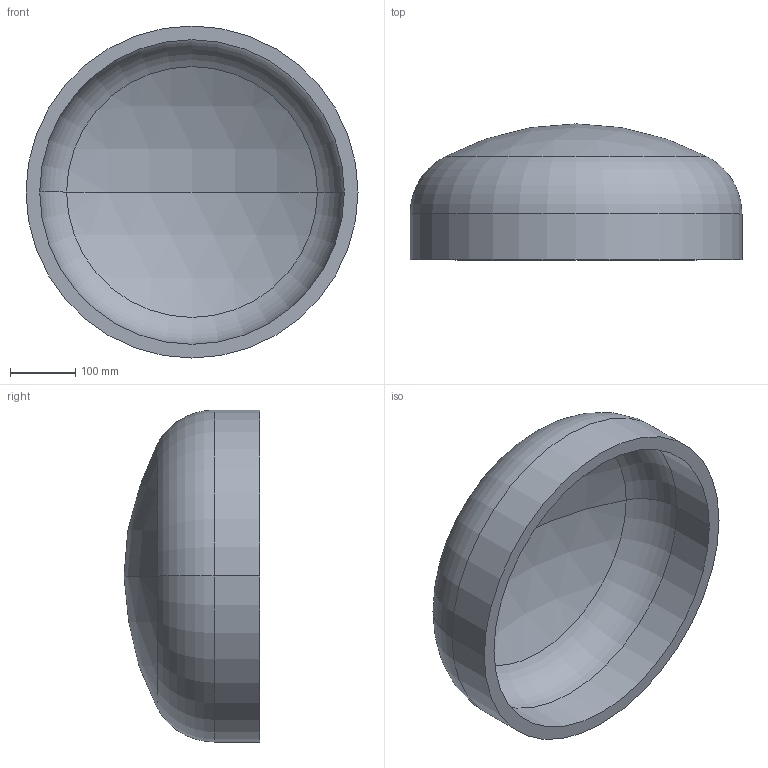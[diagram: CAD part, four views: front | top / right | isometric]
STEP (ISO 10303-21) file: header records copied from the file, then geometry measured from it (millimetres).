
FILE_DESCRIPTION (( 'STEP AP203' ), '1' );
FILE_NAME ('DIN 28013 Korbbogenform_-_Boden DIN 28013 - 508 x 70 - I - s=21.step', '2016-07-01T07:53:07', ( '' ), ( '' ), 'SwSTEP 2.0', 'SolidWorks 2013', '' );
FILE_SCHEMA (( 'CONFIG_CONTROL_DESIGN' ));
Length unit declared in the file: millimetre
Products named in the file (1): DIN 28013 Korbbogenform_-_Boden DIN 28013 - 508 x 70 - I - s=21
Bounding box: 508 x 207.93 x 508 mm (x, y, z)
Volume: 7833885.8 mm3; surface area: 779136.9 mm2
Topology: 1 solids, 1 shells, 13 faces, 24 edges, 14 vertices
Faces by surface type: torus 4, cylinder 4, sphere 4, plane 1
Entity records: 407 total; most frequent: DIRECTION 72, CARTESIAN_POINT 52, ORIENTED_EDGE 48, AXIS2_PLACEMENT_3D 34, EDGE_CURVE 24, CIRCLE 20, EDGE_LOOP 14, VERTEX_POINT 14
